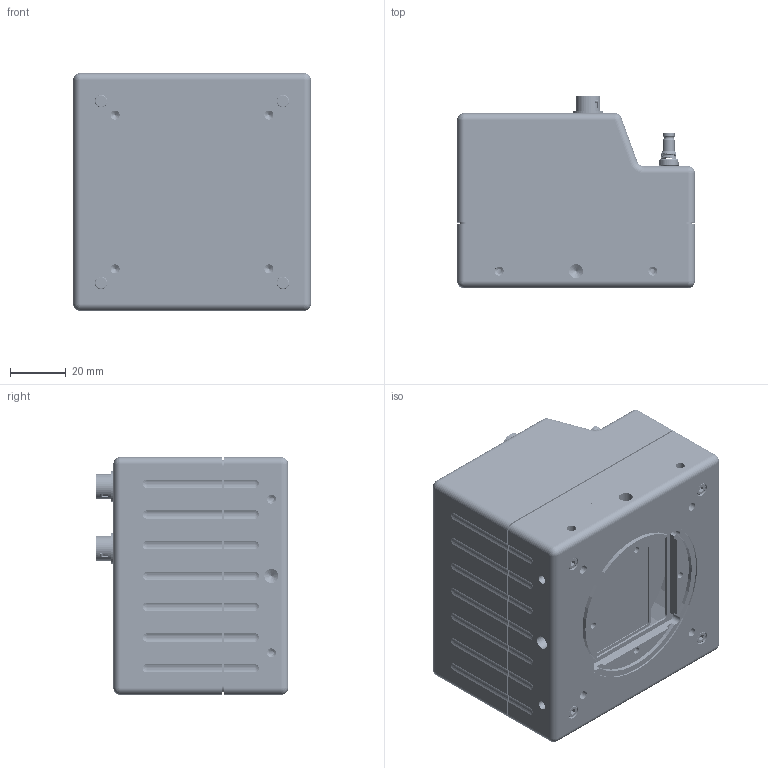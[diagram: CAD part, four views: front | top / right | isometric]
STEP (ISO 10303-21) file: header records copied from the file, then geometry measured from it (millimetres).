
FILE_DESCRIPTION(/* description */ (''),/* implementation_level */ '2;1');
FILE_NAME(/* name */ 'C:\Optronis\Inv\Modelle 3D\1890-3D\CP90-25.stp',/* time_stamp */ '2017-09-12T08:53:50+02:00',/* author */ (''),/* organization */ (''),/* preprocessor_version */ 'ST-DEVELOPER v16.13',/* originating_system */ 'Autodesk Inventor 2018',/* authorisation */ '');
FILE_SCHEMA (('CONFIG_CONTROL_DESIGN'));
Products named in the file (14): CoaxPress CP90_Gehäuse; front; Rear; Sensor 25MP; NOIV1Sx025KA-GDC Gehäuse; NOIV1Sx025KA-GDC DIE; NOIV1Sx025KA-GDC Glas; Mount recording; Plug; screw; CoaxPress; CoaxPress_1; CoaXPress Mutter; LED
Assembly tree (23 placements, depth 3):
  CoaxPress CP90_Gehäuse
    front
    Rear
    Sensor 25MP
      NOIV1Sx025KA-GDC Gehäuse
      NOIV1Sx025KA-GDC DIE
      NOIV1Sx025KA-GDC Glas
    Mount recording
    Plug  x2
    screw  x4
    CoaxPress
      CoaxPress_1  x4
      CoaXPress Mutter  x4
    LED
Bounding box: 85 x 68.8 x 85.02 mm (x, y, z)
Volume: 412874.1 mm3; surface area: 69041.8 mm2
Topology: 22 solids, 118 shells, 2829 faces, 5862 edges, 3914 vertices
Faces by surface type: plane 1196, cylinder 973, torus 369, bspline 185, cone 68, sphere 38
Full cylindrical faces by diameter (mm): 0.001 x1, 0.3 x355, 0.8 x4, 0.97 x355, 2.013 x4, 2.459 x4, 2.5 x4, 2.7 x4, 3 x4, 3.242 x12, 4 x4, 4.5 x4, 4.978 x4, 5 x4, 5.6 x2, 5.7 x2, 7 x4, 8.85 x2, 11 x2, 60 x1, 60.1 x1
Entity records: 70412 total; most frequent: CARTESIAN_POINT 18164, DIRECTION 10590, ORIENTED_EDGE 7629, AXIS2_PLACEMENT_3D 4670, EDGE_LOOP 4532, EDGE_CURVE 3873, VERTEX_POINT 3235, FACE_OUTER_BOUND 2588
